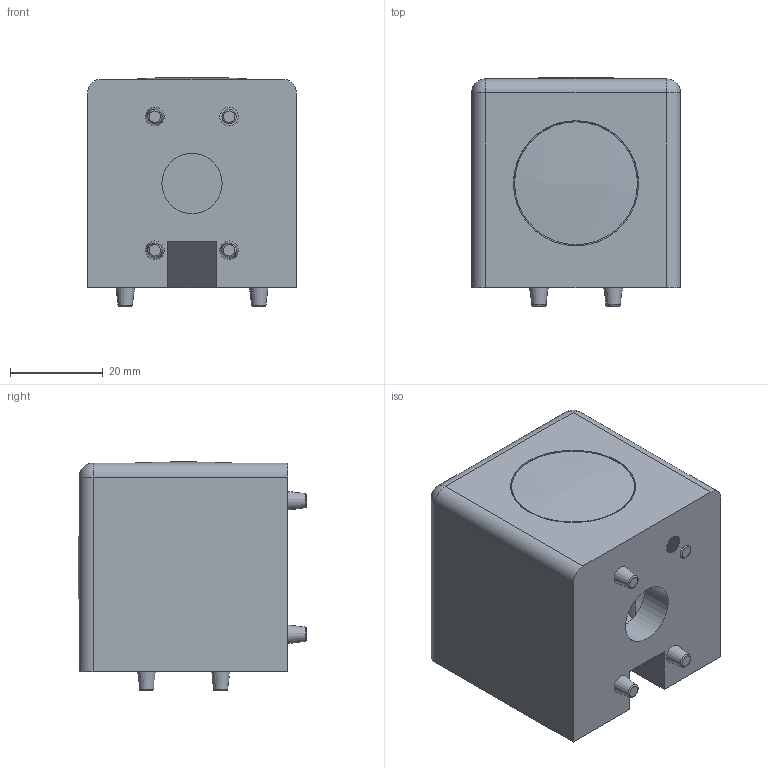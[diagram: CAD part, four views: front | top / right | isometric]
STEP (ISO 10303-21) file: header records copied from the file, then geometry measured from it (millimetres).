
FILE_DESCRIPTION(/* description */ ('STEP AP203'),/* implementation_level */ '2;1');
FILE_NAME(/* name */ 'Cube Corner Bracket - 45 Series - 2 Way.step',/* time_stamp */ '2025-06-29T02:13:47+03:00',/* author */ (''),/* organization */ (''),/* preprocessor_version */ 'ST-DEVELOPER v20.1',/* originating_system */ 'Autodesk Translation Framework v14.10.0.0',/* authorisation */ '');
FILE_SCHEMA (('AUTOMOTIVE_DESIGN { 1 0 10303 214 3 1 1 }'));
Length unit declared in the file: millimetre
Products named in the file (3): 3802.010.100; 3801.4040; 3802.010.004
Assembly tree (3 placements, depth 2):
  3802.010.100
    3801.4040  x2
    3802.010.004
Bounding box: 45 x 49.33 x 49.33 mm (x, y, z)
Volume: 60744.4 mm3; surface area: 19800.9 mm2
Topology: 3 solids, 3 shells, 86 faces, 197 edges, 126 vertices
Faces by surface type: cylinder 37, plane 23, cone 12, torus 10, sphere 4
Full cylindrical faces by diameter (mm): 13 x2, 26.5 x2, 27 x4
Entity records: 2063 total; most frequent: CARTESIAN_POINT 396, DIRECTION 375, ORIENTED_EDGE 298, AXIS2_PLACEMENT_3D 160, EDGE_CURVE 149, VERTEX_POINT 95, CIRCLE 83, EDGE_LOOP 82
